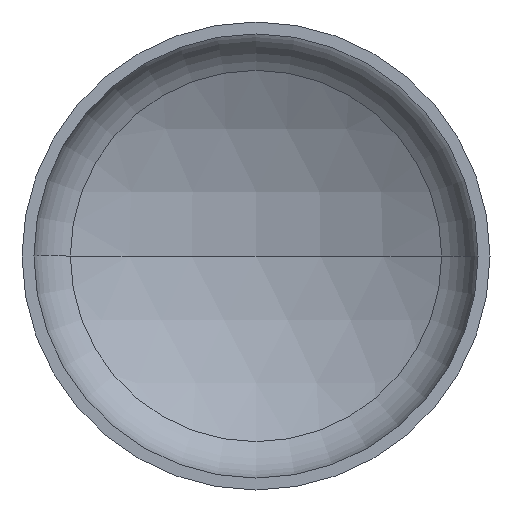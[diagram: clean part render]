
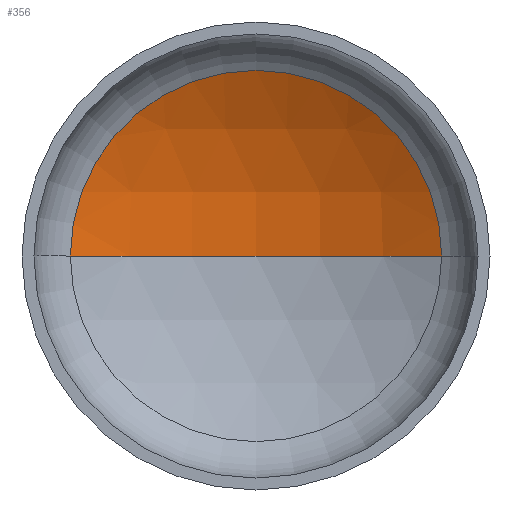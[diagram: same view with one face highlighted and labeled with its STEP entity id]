
A CAD part, front view. The second image highlights one B-rep face of the part: STEP entity #356.
In plain terms, the highlighted spherical face has radius 880 mm.
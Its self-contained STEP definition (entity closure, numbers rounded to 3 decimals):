
#5 = AXIS2_PLACEMENT_3D ( 'NONE', #170, #402, #291 ) ;
#6 = AXIS2_PLACEMENT_3D ( 'NONE', #252, #150, #153 ) ;
#16 = EDGE_LOOP ( 'NONE', ( #62, #116, #36 ) ) ;
#19 = AXIS2_PLACEMENT_3D ( 'NONE', #86, #92, #102 ) ;
#36 = ORIENTED_EDGE ( 'NONE', *, *, #339, .T. ) ;
#51 = VERTEX_POINT ( 'NONE', #397 ) ;
#62 = ORIENTED_EDGE ( 'NONE', *, *, #312, .F. ) ;
#82 = SPHERICAL_SURFACE ( 'NONE', #301, 880. ) ;
#86 = CARTESIAN_POINT ( 'NONE',  ( 0., -531.6, 0. ) ) ;
#92 = DIRECTION ( 'NONE',  ( 0., 0., 1. ) ) ;
#94 = FACE_OUTER_BOUND ( 'NONE', #16, .T. ) ;
#99 = VERTEX_POINT ( 'NONE', #169 ) ;
#102 = DIRECTION ( 'NONE',  ( 1., 0., 0. ) ) ;
#104 = CARTESIAN_POINT ( 'NONE',  ( 0., -531.6, 0. ) ) ;
#116 = ORIENTED_EDGE ( 'NONE', *, *, #341, .T. ) ;
#136 = VERTEX_POINT ( 'NONE', #286 ) ;
#150 = DIRECTION ( 'NONE',  ( 0., -1., 0. ) ) ;
#153 = DIRECTION ( 'NONE',  ( 1., 0., 0. ) ) ;
#169 = CARTESIAN_POINT ( 'NONE',  ( 436.282, 232.637, 0. ) ) ;
#170 = CARTESIAN_POINT ( 'NONE',  ( 0., -531.6, 0. ) ) ;
#201 = CIRCLE ( 'NONE', #5, 880. ) ;
#252 = CARTESIAN_POINT ( 'NONE',  ( 0., 232.637, 0. ) ) ;
#267 = CIRCLE ( 'NONE', #19, 880. ) ;
#286 = CARTESIAN_POINT ( 'NONE',  ( 0., 348.4, 0. ) ) ;
#291 = DIRECTION ( 'NONE',  ( -1., 0., 0. ) ) ;
#301 = AXIS2_PLACEMENT_3D ( 'NONE', #104, #320, #354 ) ;
#312 = EDGE_CURVE ( 'NONE', #136, #51, #267, .T. ) ;
#320 = DIRECTION ( 'NONE',  ( 0., 0., -1. ) ) ;
#339 = EDGE_CURVE ( 'NONE', #99, #51, #393, .T. ) ;
#341 = EDGE_CURVE ( 'NONE', #136, #99, #201, .T. ) ;
#354 = DIRECTION ( 'NONE',  ( -1., 0., 0. ) ) ;
#356 = ADVANCED_FACE ( 'NONE', ( #94 ), #82, .F. ) ;
#393 = CIRCLE ( 'NONE', #6, 436.282 ) ;
#397 = CARTESIAN_POINT ( 'NONE',  ( -436.282, 232.637, 0. ) ) ;
#402 = DIRECTION ( 'NONE',  ( 0., 0., -1. ) ) ;
